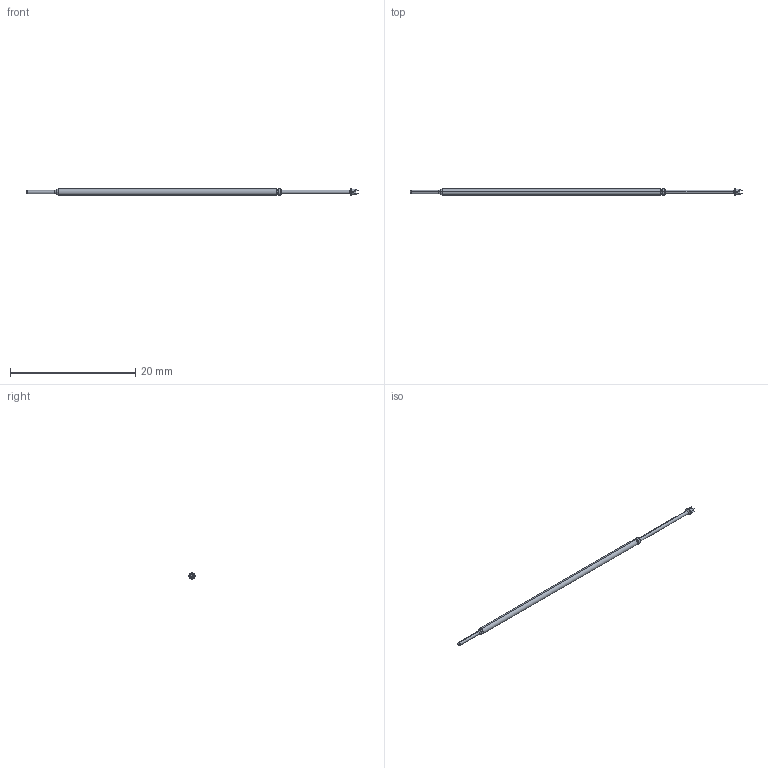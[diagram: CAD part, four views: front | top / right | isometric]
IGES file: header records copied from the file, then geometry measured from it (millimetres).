
Start section: SolidWorks IGES file using analytic representation for surfaces
Global section: file name: C:\Documents and Settings\mrumschlag\Desktop\changes\new\test\L.IGS; native system: SolidWorks 2011; preprocessor: SolidWorks 2011; author: mrumschlag; date: 110630.163411; units: inch
Bounding box: 53.09 x 1.02 x 1.02 mm (x, y, z)
Surface area: 142.1 mm2 (no closed solid volume)
Topology: 0 solids, 0 shells, 37 faces, 194 edges, 192 vertices
Faces by surface type: revolution 20, bspline 17
